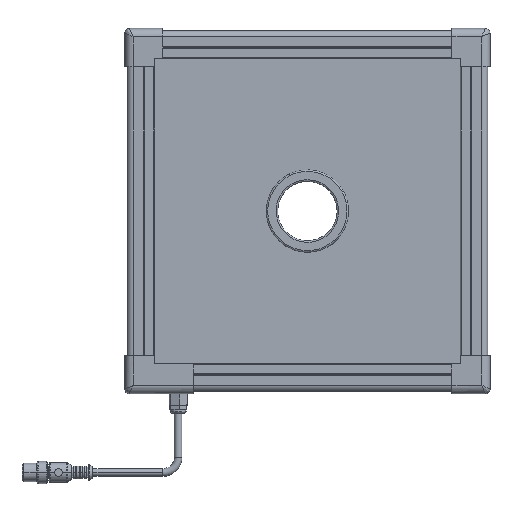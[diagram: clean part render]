
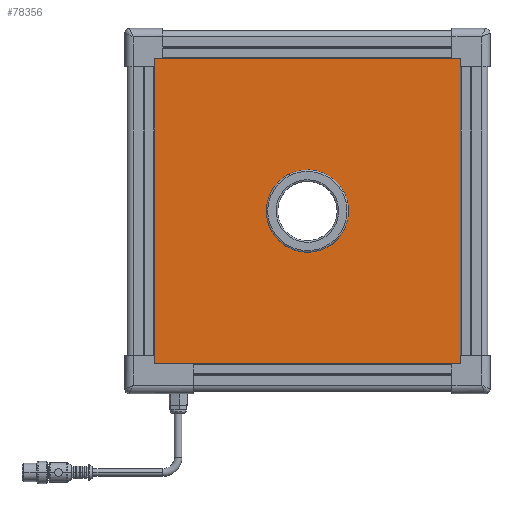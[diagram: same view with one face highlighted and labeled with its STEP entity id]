
A CAD part, top view. The second image highlights one B-rep face of the part: STEP entity #78356.
In plain terms, the highlighted planar face has unit normal (0, 0, 1) as drawn and (0, 1, 0) by its records, which use the part's own axes.
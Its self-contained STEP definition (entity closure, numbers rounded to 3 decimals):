
#179 = CARTESIAN_POINT ( 'NONE',  ( 0., 5., 0. ) ) ;
#1082 = CARTESIAN_POINT ( 'NONE',  ( 113.5, 5., 113.5 ) ) ;
#3779 = VERTEX_POINT ( 'NONE', #52816 ) ;
#4797 = EDGE_CURVE ( 'NONE', #31392, #44280, #9311, .T. ) ;
#5338 = EDGE_CURVE ( 'NONE', #26799, #31392, #32037, .T. ) ;
#7050 = CARTESIAN_POINT ( 'NONE',  ( -113.5, 5., 113.5 ) ) ;
#7554 = CARTESIAN_POINT ( 'NONE',  ( 0., 5., 0. ) ) ;
#8083 = CARTESIAN_POINT ( 'NONE',  ( 0., 5., 21.85 ) ) ;
#9311 = LINE ( 'NONE', #7050, #41536 ) ;
#14672 = EDGE_CURVE ( 'NONE', #48398, #63823, #17709, .T. ) ;
#15581 = CIRCLE ( 'NONE', #57545, 21.85 ) ;
#15604 = DIRECTION ( 'NONE',  ( 1., 0., 0. ) ) ;
#17709 = CIRCLE ( 'NONE', #66084, 21.85 ) ;
#17822 = DIRECTION ( 'NONE',  ( 0., 0., 1. ) ) ;
#24947 = CARTESIAN_POINT ( 'NONE',  ( -113.5, 5., -113.5 ) ) ;
#26799 = VERTEX_POINT ( 'NONE', #24947 ) ;
#31392 = VERTEX_POINT ( 'NONE', #49453 ) ;
#32037 = LINE ( 'NONE', #51557, #50962 ) ;
#32372 = ORIENTED_EDGE ( 'NONE', *, *, #4797, .T. ) ;
#36854 = FACE_BOUND ( 'NONE', #61010, .T. ) ;
#38891 = CARTESIAN_POINT ( 'NONE',  ( 113.5, 5., -113.5 ) ) ;
#39098 = ORIENTED_EDGE ( 'NONE', *, *, #47264, .T. ) ;
#39403 = VECTOR ( 'NONE', #67141, 1000. ) ;
#40011 = CARTESIAN_POINT ( 'NONE',  ( 0., 5., -21.85 ) ) ;
#41034 = ORIENTED_EDGE ( 'NONE', *, *, #77615, .T. ) ;
#41536 = VECTOR ( 'NONE', #15604, 1000. ) ;
#44280 = VERTEX_POINT ( 'NONE', #69865 ) ;
#45104 = DIRECTION ( 'NONE',  ( -1., 0., 0. ) ) ;
#47264 = EDGE_CURVE ( 'NONE', #44280, #3779, #57396, .T. ) ;
#47721 = EDGE_LOOP ( 'NONE', ( #39098, #41034, #70397, #32372 ) ) ;
#47732 = EDGE_CURVE ( 'NONE', #63823, #48398, #15581, .T. ) ;
#48053 = DIRECTION ( 'NONE',  ( 0., 1., 0. ) ) ;
#48398 = VERTEX_POINT ( 'NONE', #40011 ) ;
#49211 = VECTOR ( 'NONE', #45104, 1000. ) ;
#49453 = CARTESIAN_POINT ( 'NONE',  ( -113.5, 5., 113.5 ) ) ;
#50046 = FACE_OUTER_BOUND ( 'NONE', #47721, .T. ) ;
#50962 = VECTOR ( 'NONE', #75280, 1000. ) ;
#51557 = CARTESIAN_POINT ( 'NONE',  ( -113.5, 5., 113.5 ) ) ;
#52816 = CARTESIAN_POINT ( 'NONE',  ( 113.5, 5., -113.5 ) ) ;
#57027 = CARTESIAN_POINT ( 'NONE',  ( -113.5, 5., -113.5 ) ) ;
#57134 = PLANE ( 'NONE',  #63967 ) ;
#57396 = LINE ( 'NONE', #1082, #39403 ) ;
#57545 = AXIS2_PLACEMENT_3D ( 'NONE', #7554, #73906, #73624 ) ;
#61010 = EDGE_LOOP ( 'NONE', ( #61921, #61945 ) ) ;
#61921 = ORIENTED_EDGE ( 'NONE', *, *, #14672, .F. ) ;
#61945 = ORIENTED_EDGE ( 'NONE', *, *, #47732, .F. ) ;
#62417 = DIRECTION ( 'NONE',  ( 0., -1., 0. ) ) ;
#63823 = VERTEX_POINT ( 'NONE', #8083 ) ;
#63967 = AXIS2_PLACEMENT_3D ( 'NONE', #38891, #62417, #74767 ) ;
#66084 = AXIS2_PLACEMENT_3D ( 'NONE', #179, #48053, #17822 ) ;
#67141 = DIRECTION ( 'NONE',  ( 0., 0., -1. ) ) ;
#69865 = CARTESIAN_POINT ( 'NONE',  ( 113.5, 5., 113.5 ) ) ;
#70397 = ORIENTED_EDGE ( 'NONE', *, *, #5338, .T. ) ;
#73624 = DIRECTION ( 'NONE',  ( 0., 0., 1. ) ) ;
#73906 = DIRECTION ( 'NONE',  ( 0., 1., 0. ) ) ;
#74688 = LINE ( 'NONE', #57027, #49211 ) ;
#74767 = DIRECTION ( 'NONE',  ( 0., 0., -1. ) ) ;
#75280 = DIRECTION ( 'NONE',  ( 0., 0., 1. ) ) ;
#77615 = EDGE_CURVE ( 'NONE', #3779, #26799, #74688, .T. ) ;
#78356 = ADVANCED_FACE ( 'NONE', ( #50046, #36854 ), #57134, .F. ) ;
